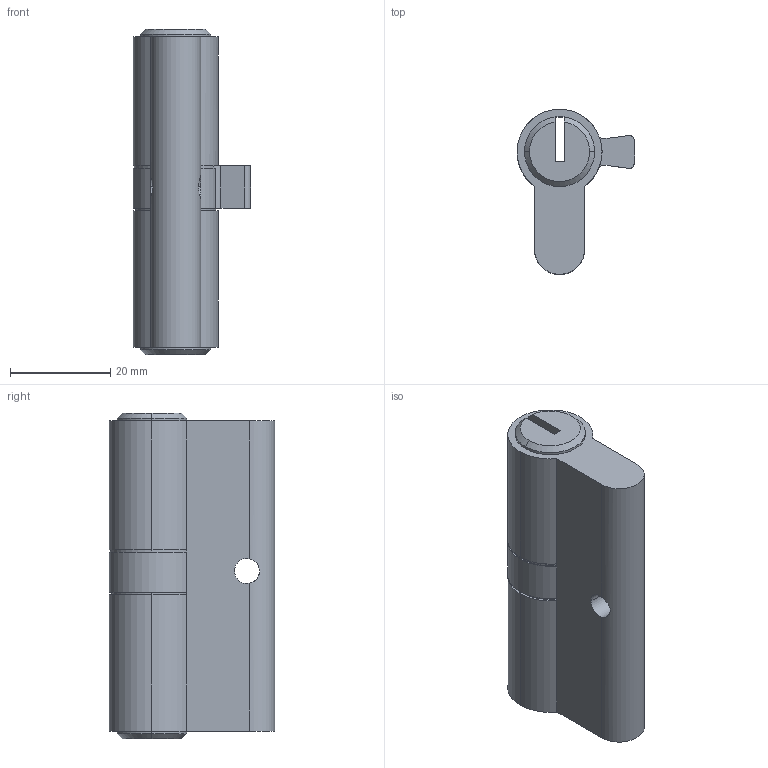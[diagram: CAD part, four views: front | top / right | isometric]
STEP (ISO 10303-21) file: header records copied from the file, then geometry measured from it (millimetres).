
FILE_DESCRIPTION (( 'STEP AP214' ), '1' );
FILE_NAME ('TPL-H-APC-015-L 09Oct2024.STEP', '2024-10-09T04:49:28', ( '' ), ( '' ), 'SwSTEP 2.0', 'SolidWorks 2023', '' );
FILE_SCHEMA (( 'AUTOMOTIVE_DESIGN' ));
Length unit declared in the file: millimetre
Products named in the file (1): TPL-H-APC-015-L 09Oct2024
Bounding box: 23.58 x 33 x 65 mm (x, y, z)
Volume: 23136.1 mm3; surface area: 7790.1 mm2
Topology: 1 solids, 1 shells, 51 faces, 141 edges, 88 vertices
Faces by surface type: cylinder 29, plane 16, cone 6
Entity records: 1740 total; most frequent: CARTESIAN_POINT 357, DIRECTION 307, ORIENTED_EDGE 282, EDGE_CURVE 141, AXIS2_PLACEMENT_3D 122, VERTEX_POINT 88, CIRCLE 70, LINE 63
